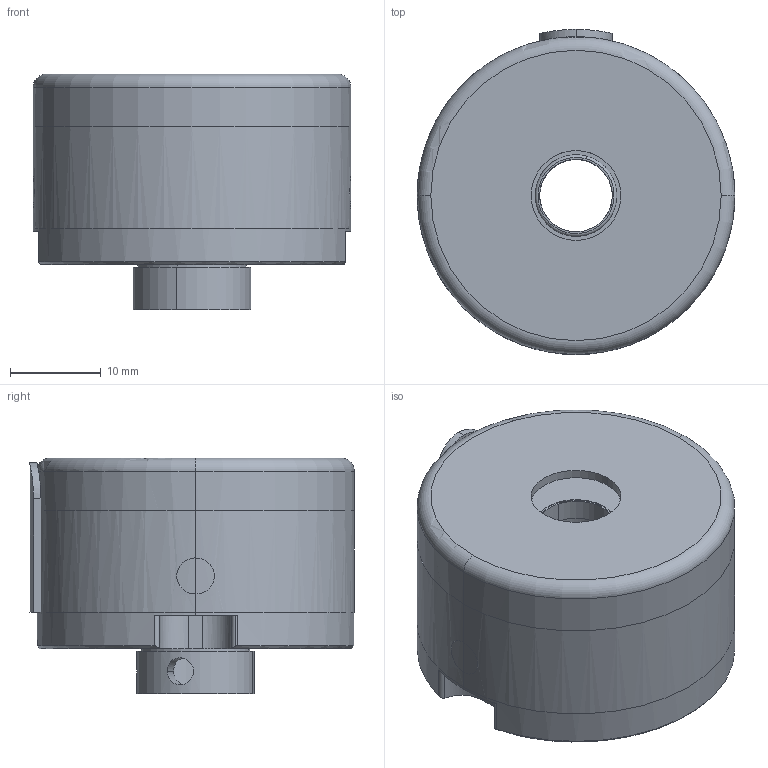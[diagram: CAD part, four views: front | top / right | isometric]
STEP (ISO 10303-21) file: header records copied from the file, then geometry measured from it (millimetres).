
FILE_DESCRIPTION (( 'STEP AP214' ), '1' );
FILE_NAME ('3508蚾饜芞.STEP', '2024-11-21T00:24:18', ( 'Windows 蚚誧' ), ( '' ), 'SwSTEP 2.0', 'SolidWorks 2021', '' );
FILE_SCHEMA (( 'AUTOMOTIVE_DESIGN' ));
Length unit declared in the file: millimetre
Products named in the file (1): 3508蚾饜芞
Bounding box: 35 x 35.8 x 26 mm (x, y, z)
Volume: 16848.3 mm3; surface area: 10772.3 mm2
Topology: 3 solids, 5 shells, 111 faces, 280 edges, 179 vertices
Faces by surface type: cylinder 65, plane 28, cone 8, torus 6, bspline 4
Entity records: 7196 total; most frequent: CARTESIAN_POINT 3326, ORIENTED_EDGE 552, DIRECTION 511, EDGE_CURVE 276, AXIS2_PLACEMENT_3D 208, VERTEX_POINT 179, EDGE_LOOP 131, UNCERTAINTY_MEASURE_WITH_UNIT 116
